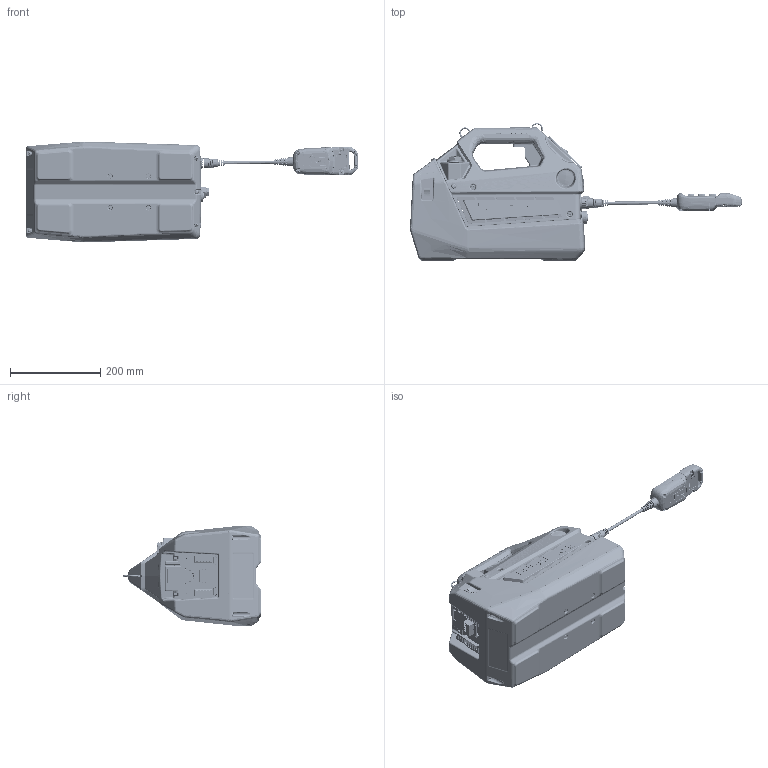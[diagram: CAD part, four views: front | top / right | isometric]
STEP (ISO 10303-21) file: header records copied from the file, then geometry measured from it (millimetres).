
FILE_DESCRIPTION((''),'2;1');
FILE_NAME('XC2304S','2024-02-14T07:56:55',('Steve.Held'),(''),'CREO PARAMETRIC BY PTC INC, 2020454','CREO PARAMETRIC BY PTC INC, 2020454','');
FILE_SCHEMA(('CONFIG_CONTROL_DESIGN'));
Products named in the file (1): XC2304S
Bounding box: 737.24 x 306.41 x 224.06 mm (x, y, z)
Surface area: 1566897.9 mm2 (no closed solid volume)
Topology: 0 solids, 548 shells, 8363 faces, 33668 edges, 24862 vertices
Faces by surface type: plane 2953, cylinder 1989, bspline 1981, cone 703, torus 615, sphere 88, extrusion 34
Entity records: 573302 total; most frequent: CARTESIAN_POINT 321890, ORIENTED_EDGE 50253, DIRECTION 45168, EDGE_CURVE 33608, VERTEX_POINT 24862, VECTOR 15164, LINE 15130, AXIS2_PLACEMENT_3D 15002
